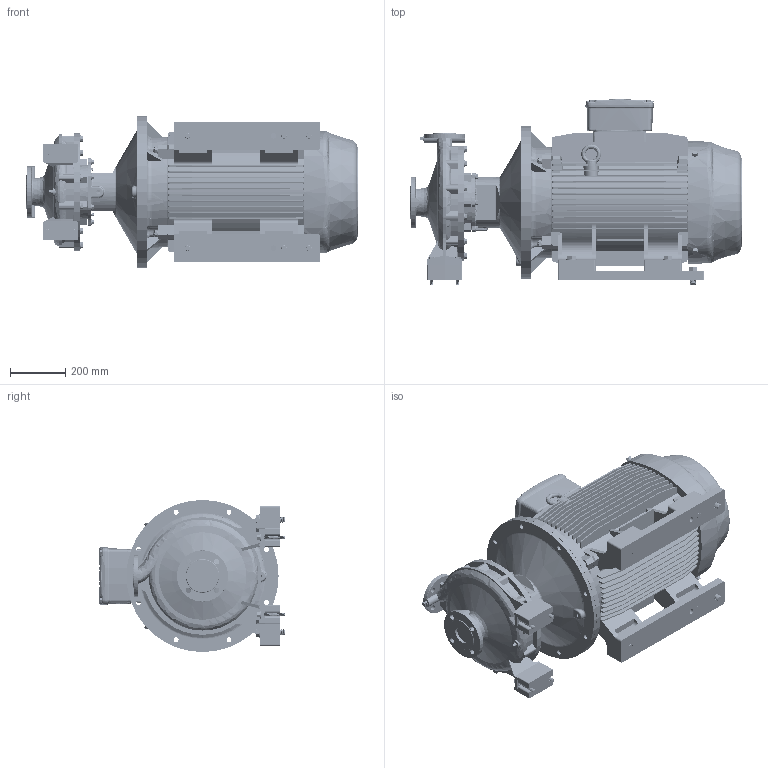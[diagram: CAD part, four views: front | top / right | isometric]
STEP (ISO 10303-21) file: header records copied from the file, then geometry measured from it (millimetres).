
FILE_DESCRIPTION (( 'STEP AP214' ), '1' );
FILE_NAME ('GSD2 40-315_55_(250SM)_W21.STEP', '2026-07-02T06:33:55', ( '' ), ( '' ), 'SwSTEP 2.0', 'SolidWorks 2024', '' );
FILE_SCHEMA (( 'AUTOMOTIVE_DESIGN' ));
Length unit declared in the file: millimetre
Products named in the file (13): CGS11-5311_2_3_4_5_CGS11-5314; 100x30 - CGSDA-5291; Parametric bolt and washer_SFT-A417B; Parametric Stud Bolt_SFSK-AB305; GSD2  40-315_55_(250SM)_W21; Parametric Flat Washer_M12; Parametric bolt_SFT-A417B; Parametric Flat Washer_M20; Parametric Nut_M12; CGS11-5311_2_3_4_5_CGS11-5312; 40-315-250S_M; 250S_M2P IE3_W21T_B35; A407B Bolt_407
Assembly tree (30 placements, depth 3):
  GSD2  40-315_55_(250SM)_W21
    40-315-250S_M
    250S_M2P IE3_W21T_B35
    CGS11-5311_2_3_4_5_CGS11-5312  x2
    CGS11-5311_2_3_4_5_CGS11-5314  x2
    100x30 - CGSDA-5291  x2
    Parametric Stud Bolt_SFSK-AB305  x4
    Parametric Flat Washer_M12  x4
    Parametric Nut_M12  x4
    A407B Bolt_407  x2
    Parametric Flat Washer_M20  x2
    Parametric bolt and washer_SFT-A417B  x4
      Parametric bolt_SFT-A417B
      Parametric Flat Washer_M20
Bounding box: 1200.5 x 670 x 550 mm (x, y, z)
Volume: 140530522.6 mm3; surface area: 5555748.4 mm2
Topology: 49 solids, 54 shells, 4883 faces, 13082 edges, 8424 vertices
Faces by surface type: cylinder 1872, plane 1816, cone 563, torus 309, bspline 307, sphere 16
Entity records: 180031 total; most frequent: CARTESIAN_POINT 83721, ORIENTED_EDGE 21294, DIRECTION 18869, EDGE_CURVE 10647, AXIS2_PLACEMENT_3D 6905, VERTEX_POINT 6846, LINE 5059, VECTOR 5059
